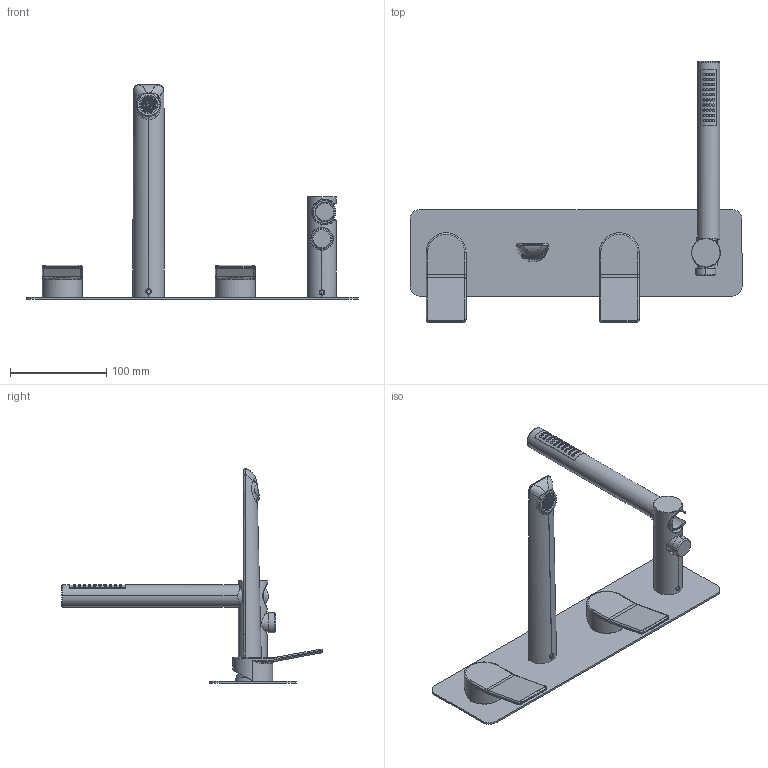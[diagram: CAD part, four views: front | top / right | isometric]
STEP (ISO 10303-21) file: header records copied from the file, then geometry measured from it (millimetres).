
FILE_DESCRIPTION (( 'STEP AP203' ), '1' );
FILE_NAME ('85140310 x architetti.STEP', '2026-06-12T15:09:47', ( '' ), ( '' ), 'SwSTEP 2.0', 'SolidWorks 2020', '' );
FILE_SCHEMA (( 'CONFIG_CONTROL_DESIGN' ));
Length unit declared in the file: millimetre
Products named in the file (1): 85140310 x architetti
Bounding box: 345 x 271.21 x 222.87 mm (x, y, z)
Volume: 300004.9 mm3; surface area: 162671.2 mm2
Topology: 3 solids, 4 shells, 1540 faces, 3642 edges, 2169 vertices
Faces by surface type: plane 678, cylinder 605, bspline 187, cone 40, torus 30
Entity records: 61663 total; most frequent: CARTESIAN_POINT 29531, ORIENTED_EDGE 7252, DIRECTION 5770, EDGE_CURVE 3626, VERTEX_POINT 2169, LINE 1938, VECTOR 1938, AXIS2_PLACEMENT_3D 1916
